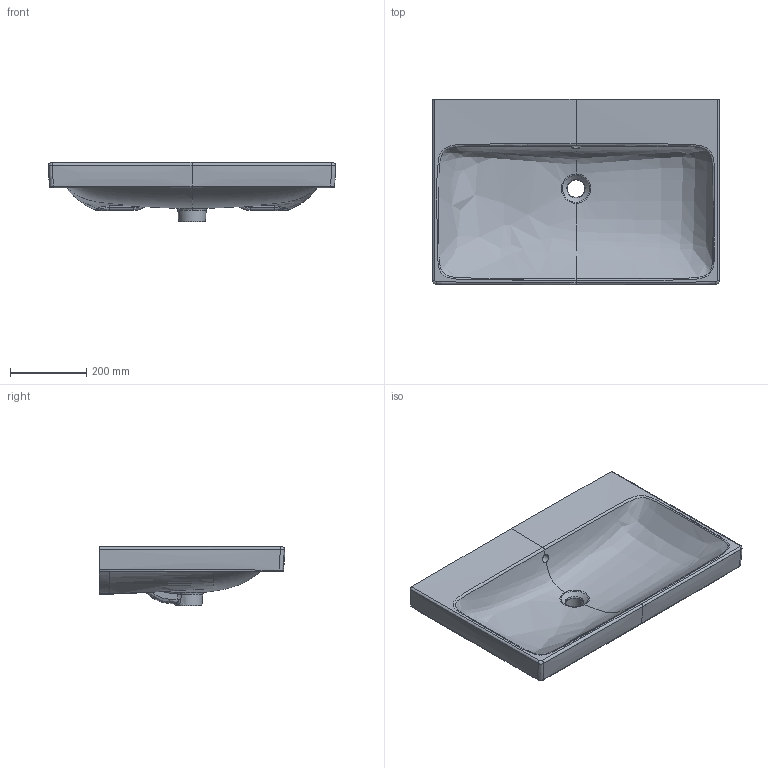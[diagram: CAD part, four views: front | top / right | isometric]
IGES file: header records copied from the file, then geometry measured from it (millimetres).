
Global section: file name: 510.008.00.5; native system: Autodesk Inventor 2023; preprocessor: unknown; author: JANAN; date: 20241002.121822; units: millimetre
Bounding box: 754.36 x 488 x 156.5 mm (x, y, z)
Volume: 12346182.8 mm3; surface area: 1128872.8 mm2
Topology: 1 solids, 1 shells, 138 faces, 361 edges, 222 vertices
Faces by surface type: bspline 138
